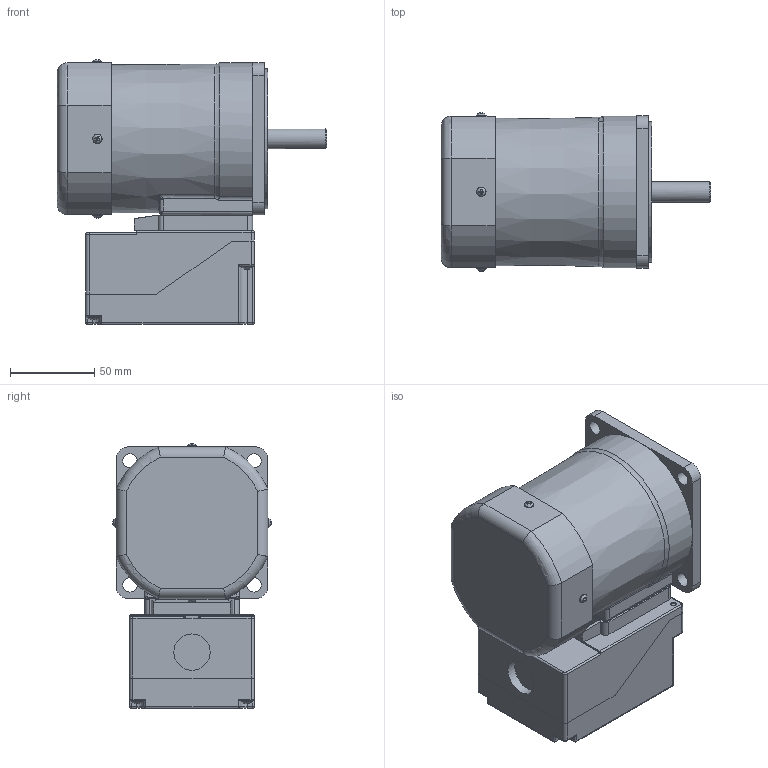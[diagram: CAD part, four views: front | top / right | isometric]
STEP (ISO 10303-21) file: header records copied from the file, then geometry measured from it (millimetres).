
FILE_DESCRIPTION(/* description */ (''),/* implementation_level */ '2;1');
FILE_NAME(/* name */ 'E:\도면작업\2016\0704) 미주향 SG 도면\3D MOTOR\TERMINAL BOX TYPE\INDUCTION TERMINAL BOX\SG9I60K_-T2.stp',/* time_stamp */ '2017-01-23T18:57:31+09:00',/* author */ ('jy-jung'),/* organization */ (''),/* preprocessor_version */ 'ST-DEVELOPER v15.6',/* originating_system */ 'Autodesk Inventor 2015',/* authorisation */ '');
FILE_SCHEMA (('AUTOMOTIVE_DESIGN { 1 0 10303 214 3 1 1 }'));
Length unit declared in the file: millimetre
Products named in the file (1): 부품1
Bounding box: 159.8 x 93.89 x 156.95 mm (x, y, z)
Volume: 935515.4 mm3; surface area: 138894.3 mm2
Topology: 1 solids, 9 shells, 948 faces, 2500 edges, 1596 vertices
Faces by surface type: plane 504, cylinder 311, bspline 55, torus 42, cone 24, sphere 12
Full cylindrical faces by diameter (mm): 2.5 x4, 3 x8, 3.2 x3, 3.4 x1, 3.5 x4, 4.2 x1, 4.5 x8, 5.5 x8, 5.6 x4, 6.9 x4, 8.5 x4, 12 x1, 21.5 x1, 40 x1, 83 x1
Entity records: 31623 total; most frequent: CARTESIAN_POINT 7753, ORIENTED_EDGE 4722, DIRECTION 4687, EDGE_CURVE 2361, AXIS2_PLACEMENT_3D 1651, VERTEX_POINT 1577, LINE 1385, VECTOR 1385
